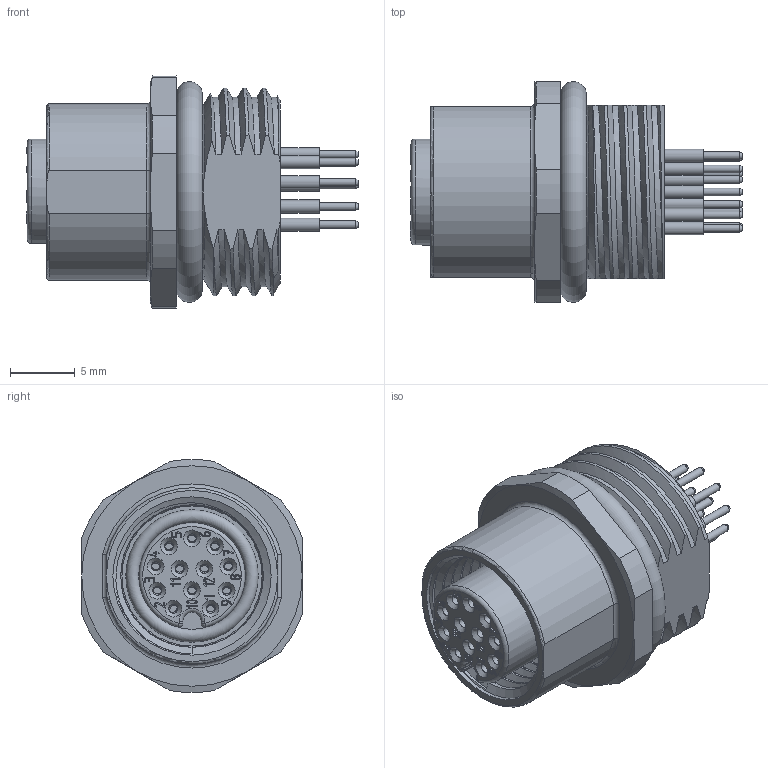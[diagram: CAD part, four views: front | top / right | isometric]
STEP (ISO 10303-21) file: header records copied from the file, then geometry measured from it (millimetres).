
FILE_DESCRIPTION(/* description */ (''),/* implementation_level */ '2;1');
FILE_NAME(/* name */ '86 0232 0100 00012 001_00-FD.stp',/* time_stamp */ '2017-09-12T12:42:05+02:00',/* author */ (''),/* organization */ (''),/* preprocessor_version */ 'ST-DEVELOPER v16',/* originating_system */ 'SIEMENS PLM Software NX 11.0',/* authorisation */ '');
FILE_SCHEMA (('AUTOMOTIVE_DESIGN { 1 0 10303 214 3 1 1 1 }'));
Length unit declared in the file: millimetre
Products named in the file (1): smag0E884AF95hik
Bounding box: 25.6 x 17.02 x 17.96 mm (x, y, z)
Volume: 2527.1 mm3; surface area: 3531.5 mm2
Topology: 1 solids, 3 shells, 571 faces, 1338 edges, 854 vertices
Faces by surface type: plane 230, extrusion 123, cylinder 112, cone 48, bspline 43, torus 13, sphere 2
Full cylindrical faces by diameter (mm): 0.6 x12, 0.7 x24, 1 x12, 1.15 x12, 1.2 x12, 8.2 x2, 10.8 x1, 11 x1, 12.2 x1, 13.3 x2
Entity records: 23581 total; most frequent: CARTESIAN_POINT 12006, ORIENTED_EDGE 2266, DIRECTION 2101, EDGE_CURVE 1133, AXIS2_PLACEMENT_3D 803, EDGE_LOOP 782, VERTEX_POINT 775, ADVANCED_FACE 571
